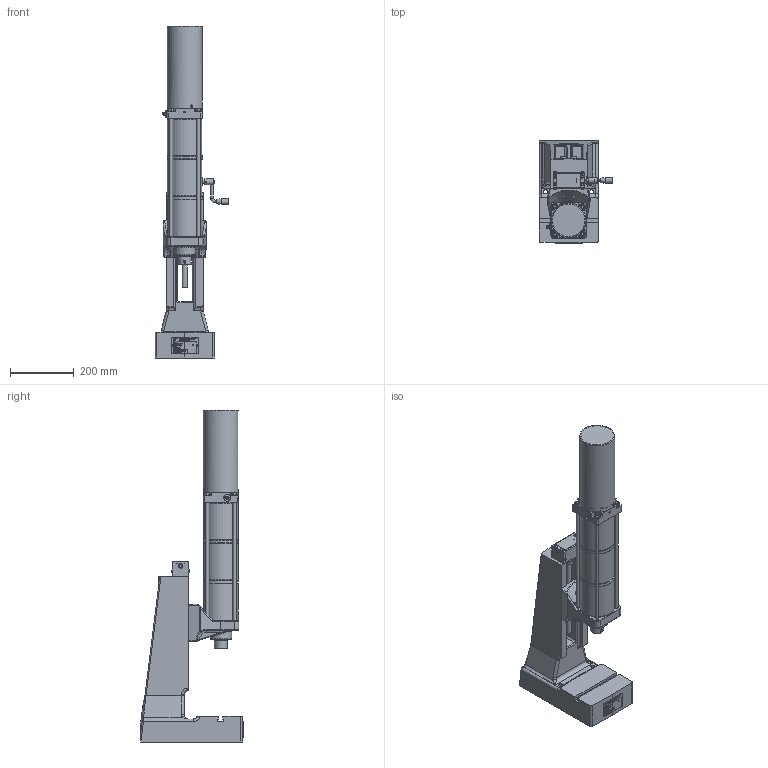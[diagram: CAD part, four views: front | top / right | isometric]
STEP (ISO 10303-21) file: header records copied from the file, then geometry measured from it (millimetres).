
FILE_DESCRIPTION(/* description */ ('Bausatz Ständer T460 N HV-OST'),/* implementation_level */ '2;1');
FILE_NAME(/* name */ 'B:\02_CAD_oeffentlich\CAD_3D_oeffentlich_step\Druckluftpresse\DRP_1300_080_100.stp',/* time_stamp */ '2017-08-22T11:19:42+02:00',/* author */ ('Finsterle'),/* organization */ (''),/* preprocessor_version */ 'ST-DEVELOPER v16.1',/* originating_system */ 'Autodesk Inventor 2016',/* authorisation */ '');
FILE_SCHEMA (('AUTOMOTIVE_DESIGN { 1 0 10303 214 3 1 1 }'));
Products named in the file (5): ENG-000341-1_V; ENG-001066-1_V; HBF-000760; ENG-000755; HBF-001052_V
Assembly tree (5 placements, depth 2):
  HBF-001052_V
    ENG-000341-1_V
    ENG-001066-1_V
    HBF-000760
    ENG-000755  x2
Bounding box: 231.79 x 321.2 x 1040.13 mm (x, y, z)
Volume: 9867617.9 mm3; surface area: 1428610.8 mm2
Topology: 6 solids, 29 shells, 7792 faces, 21036 edges, 13723 vertices
Faces by surface type: plane 4643, bspline 2170, cylinder 531, cone 261, torus 111, sphere 76
Full cylindrical faces by diameter (mm): 1 x1, 2 x1, 2.459 x2, 3 x9, 3.242 x7, 3.5 x2, 3.65 x4, 4 x10, 4.134 x1, 4.5 x4, 4.917 x6, 5 x3, 6 x4, 6.2 x4, 6.5 x2, 6.647 x1, 8 x7, 8.4 x1, 8.5 x1, 10 x12, 10.02 x1, 10.106 x2, 10.5 x12, 11.8 x2, 12 x7, 13 x8, 13.5 x4, 14 x3, 14.376 x2, 14.95 x3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
Entity records: 265832 total; most frequent: CARTESIAN_POINT 79788, ORIENTED_EDGE 40682, DIRECTION 28660, EDGE_CURVE 20329, LINE 14044, VECTOR 14044, VERTEX_POINT 13562, EDGE_LOOP 8836
